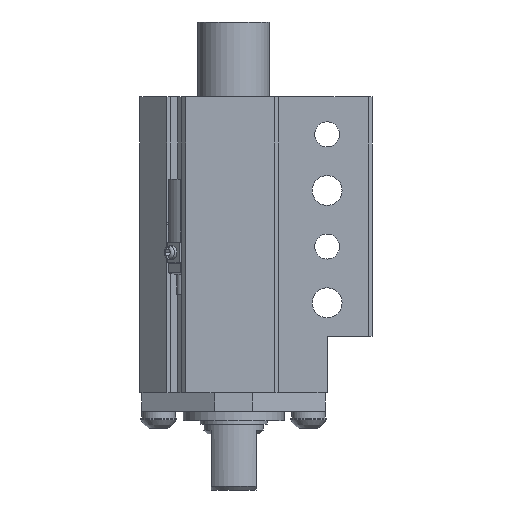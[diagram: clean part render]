
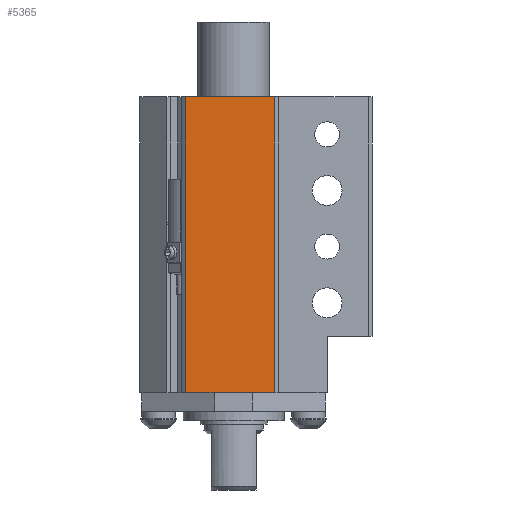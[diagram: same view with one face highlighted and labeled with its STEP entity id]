
A CAD part, front view. The second image highlights one B-rep face of the part: STEP entity #5365.
In plain terms, the highlighted planar face has unit normal (0, -1, 0).
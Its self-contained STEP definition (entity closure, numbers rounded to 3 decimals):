
#430=PLANE('',#6066);
#687=FACE_OUTER_BOUND('',#988,.T.);
#988=EDGE_LOOP('',(#4726,#4727,#4728,#4729));
#1468=LINE('',#9082,#1970);
#1490=LINE('',#9159,#1992);
#1493=LINE('',#9165,#1995);
#1494=LINE('',#9166,#1996);
#1970=VECTOR('',#7282,10.);
#1992=VECTOR('',#7366,10.);
#1995=VECTOR('',#7371,10.);
#1996=VECTOR('',#7372,10.);
#2682=VERTEX_POINT('',#9079);
#2683=VERTEX_POINT('',#9081);
#2707=VERTEX_POINT('',#9158);
#2709=VERTEX_POINT('',#9164);
#3373=EDGE_CURVE('',#2682,#2683,#1468,.T.);
#3410=EDGE_CURVE('',#2683,#2707,#1490,.T.);
#3413=EDGE_CURVE('',#2682,#2709,#1493,.T.);
#3414=EDGE_CURVE('',#2707,#2709,#1494,.T.);
#4726=ORIENTED_EDGE('',*,*,#3410,.F.);
#4727=ORIENTED_EDGE('',*,*,#3373,.F.);
#4728=ORIENTED_EDGE('',*,*,#3413,.T.);
#4729=ORIENTED_EDGE('',*,*,#3414,.F.);
#5365=ADVANCED_FACE('',(#687),#430,.T.);
#6066=AXIS2_PLACEMENT_3D('',#9163,#7369,#7370);
#7282=DIRECTION('',(1.,0.,0.));
#7366=DIRECTION('',(0.,0.,-1.));
#7369=DIRECTION('center_axis',(0.,-1.,0.));
#7370=DIRECTION('ref_axis',(1.,0.,0.));
#7371=DIRECTION('',(0.,0.,-1.));
#7372=DIRECTION('',(-1.,0.,0.));
#9079=CARTESIAN_POINT('',(-12.77,-19.05,79.));
#9081=CARTESIAN_POINT('',(11.,-19.05,79.));
#9082=CARTESIAN_POINT('',(37.,-19.05,79.));
#9158=CARTESIAN_POINT('',(11.,-19.05,0.));
#9159=CARTESIAN_POINT('',(11.,-19.05,0.));
#9163=CARTESIAN_POINT('Origin',(-25.,-19.05,0.));
#9164=CARTESIAN_POINT('',(-12.77,-19.05,0.));
#9165=CARTESIAN_POINT('',(-12.77,-19.05,0.));
#9166=CARTESIAN_POINT('',(37.,-19.05,0.));
